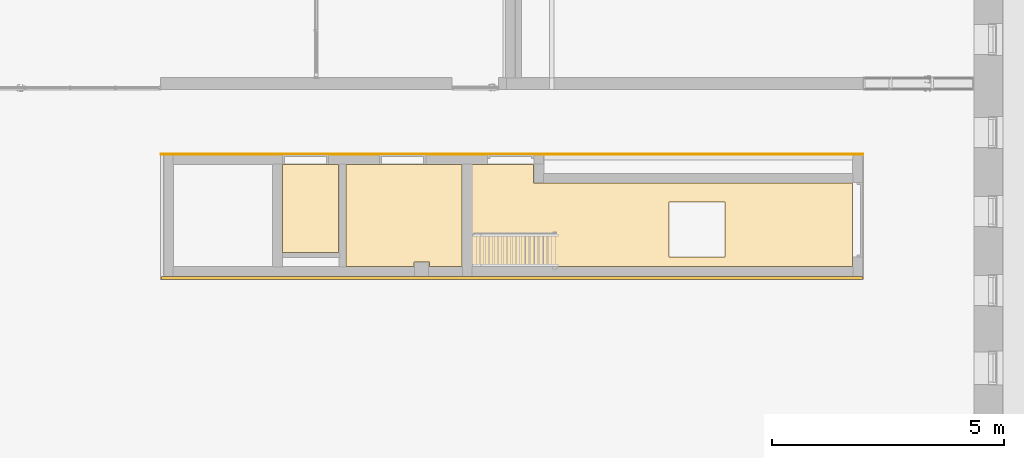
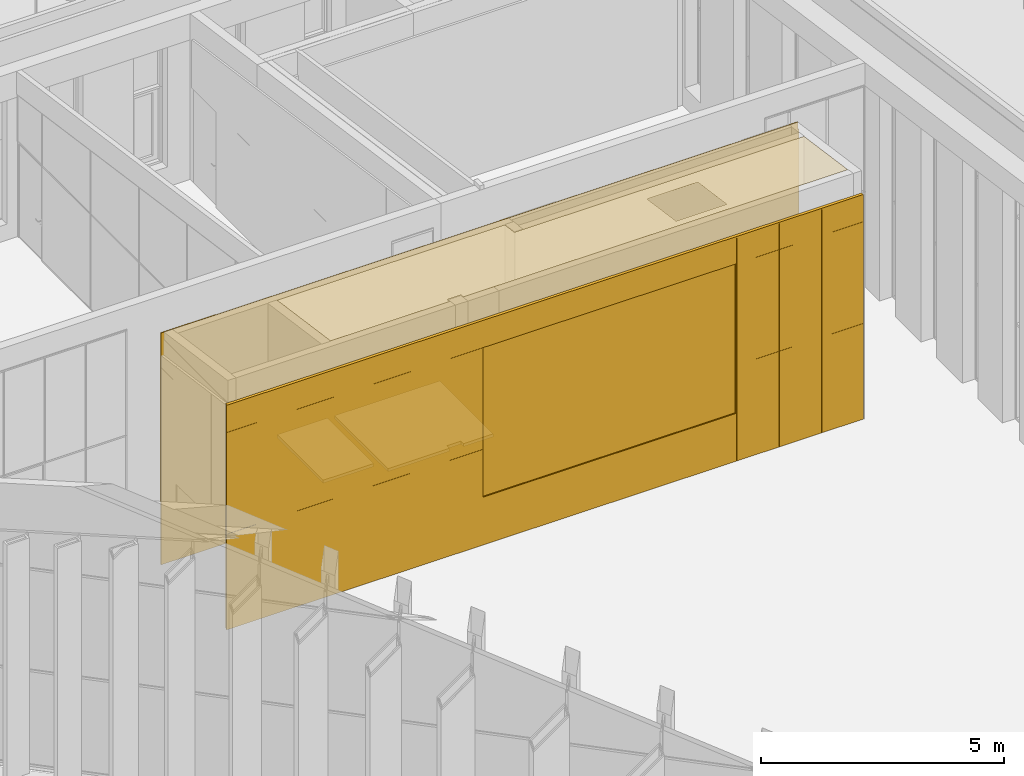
# One storey, part 179 of 246: 5 coverings, 5 openings.
"""IFC2X3 building model written with IfcOpenShell, lengths in millimetres."""

import ifcopenshell
import ifcopenshell.guid

model = None  # the IFC model being written
_history = None  # IfcOwnerHistory: only IFC2X3 demands one
_inside = {}  # id of a spatial element -> (the spatial element, [elements in it])
_under = {}  # id of a project, library or spatial element -> (it, [spatial elements below it])
_declared = {}  # id of a project -> (the project, [libraries it declares])
_typed = {}  # id of a type object -> (the type object, [elements of that type])
_made_of = {}  # id of a material, layer set ... -> (it, [elements and type objects made of it])


def new_model(schema):
    """Start an empty IFC model of exactly this schema.

    Asked for "IFC4X3", IfcOpenShell would pick the latest addendum, in which some entities
    have other attributes; the version numbers below select the first issue.
    IFC2X3 requires an IfcOwnerHistory on every rooted entity: one is made here for all.
    """
    global model, _history
    if schema == "IFC4X3":
        model = ifcopenshell.file(schema_version=(4, 3, 0, 0))
    else:
        model = ifcopenshell.file(schema=schema)
    _inside.clear()
    _under.clear()
    _declared.clear()
    _typed.clear()
    _made_of.clear()
    _history = None
    if model.schema == "IFC2X3":
        org = make("IfcOrganization", Name="unknown")
        user = make(
            "IfcPersonAndOrganization",
            ThePerson=make("IfcPerson", FamilyName="unknown"),
            TheOrganization=org,
        )
        app = make(
            "IfcApplication",
            ApplicationDeveloper=org,
            Version="unknown",
            ApplicationFullName="unknown",
            ApplicationIdentifier="unknown",
        )
        _history = make(
            "IfcOwnerHistory",
            OwningUser=user,
            OwningApplication=app,
            ChangeAction="ADDED",
            CreationDate=0,
        )
    return model


def make(cls, **values):
    """One entity of the class cls with the attributes given. An attribute that is None is left unset."""
    return model.create_entity(
        cls, **{name: value for name, value in values.items() if value is not None}
    )


def entity(cls, *values):
    """Any entity or typed value of the class cls, its attributes in the order of the schema. None: left unset."""
    e = model.create_entity(cls)
    for i, value in enumerate(values):
        if value is not None:
            e[i] = value
    return e


def rooted(cls, **values):
    """An entity with a GlobalId (a new one), such as an element, a storey or a relation."""
    return make(cls, GlobalId=ifcopenshell.guid.new(), OwnerHistory=_history, **values)


def si_unit(unit_type, name, prefix=None):
    """IfcSIUnit, for example si_unit("LENGTHUNIT", "METRE", prefix="MILLI")."""
    return make("IfcSIUnit", UnitType=unit_type, Prefix=prefix, Name=name)


def converted_unit(unit_type, name, factor, base, dimensions=None, offset=None):
    """IfcConversionBasedUnit, such as the inch: factor (a typed value) times the base unit."""
    return make(
        "IfcConversionBasedUnit"
        if offset is None
        else "IfcConversionBasedUnitWithOffset",
        ConversionOffset=offset,
        Dimensions=None
        if dimensions is None
        else entity("IfcDimensionalExponents", *dimensions),
        UnitType=unit_type,
        Name=name,
        ConversionFactor=make(
            "IfcMeasureWithUnit", ValueComponent=factor, UnitComponent=base
        ),
    )


def derived_unit(unit_type, elements):
    """IfcDerivedUnit: a product of units, each with its exponent."""
    return make(
        "IfcDerivedUnit",
        Elements=[
            make("IfcDerivedUnitElement", Unit=unit, Exponent=power)
            for unit, power in elements
        ],
        UnitType=unit_type,
    )


def money_unit(currency):
    """IfcMonetaryUnit."""
    return make("IfcMonetaryUnit", Currency=currency)


def assignment(units):
    """IfcUnitAssignment: the units of a project."""
    return None if units is None else make("IfcUnitAssignment", Units=units)


def point(xyz):
    """IfcCartesianPoint."""
    return None if xyz is None else make("IfcCartesianPoint", Coordinates=xyz)


def direction(xyz):
    """IfcDirection."""
    return None if xyz is None else make("IfcDirection", DirectionRatios=xyz)


def frame(location, z_axis=None, x_axis=None):
    """IfcAxis2Placement3D, a coordinate frame: its origin and axes. An axis left out is left unset."""
    return make(
        "IfcAxis2Placement3D",
        Location=point(location),
        Axis=direction(z_axis),
        RefDirection=direction(x_axis),
    )


def origin_with_axes():
    """The frame at (0, 0, 0) with the z axis (0, 0, 1) and the x axis (1, 0, 0) written out."""
    return frame((0.0, 0.0, 0.0), z_axis=(0.0, 0.0, 1.0), x_axis=(1.0, 0.0, 0.0))


def place(relative_to, where):
    """IfcLocalPlacement: puts the frame where relative to a parent placement (None: the world)."""
    return make(
        "IfcLocalPlacement", PlacementRelTo=relative_to, RelativePlacement=where
    )


def context(
    kind, dimensions, precision=None, world=None, true_north=None, identifier=None
):
    """IfcGeometricRepresentationContext, for example the 3D "Model" context."""
    return make(
        "IfcGeometricRepresentationContext",
        ContextIdentifier=identifier,
        ContextType=kind,
        CoordinateSpaceDimension=dimensions,
        Precision=precision,
        WorldCoordinateSystem=world,
        TrueNorth=true_north,
    )


def subcontext(parent, identifier, kind, view, scale=None):
    """IfcGeometricRepresentationSubContext, for example "Body" below "Model"."""
    return make(
        "IfcGeometricRepresentationSubContext",
        ContextIdentifier=identifier,
        ContextType=kind,
        ParentContext=parent,
        TargetScale=scale,
        TargetView=view,
    )


def project(units=None, contexts=None):
    """IfcProject with its units and contexts."""
    return rooted(
        "IfcProject",
        Name="project",
        RepresentationContexts=contexts,
        UnitsInContext=assignment(units),
    )


def spatial(cls, under=None, at=None, **own):
    """A site, building, storey or space (cls), placed at a placement, below another one or the project."""
    s = rooted(cls, ObjectPlacement=at, **own)
    if under is not None:
        _under.setdefault(under.id(), (under, []))[1].append(s)
    return s


def faces_of(points, faces, orient=None, outer=None):
    """IfcFace entities. A face is a list of loops; a loop is a list of indices into points, from 0.

    orient and outer hold one flag for each loop. By default every Orientation is true, the
    first loop of a face is its IfcFaceOuterBound and the others are IfcFaceBound.
    """
    made = []
    for i, loops in enumerate(faces):
        bounds = []
        for j, loop in enumerate(loops):
            is_outer = j == 0 if outer is None else outer[i][j]
            bounds.append(
                make(
                    "IfcFaceOuterBound" if is_outer else "IfcFaceBound",
                    Bound=make("IfcPolyLoop", Polygon=[points[k] for k in loop]),
                    Orientation=True if orient is None else orient[i][j],
                )
            )
        made.append(make("IfcFace", Bounds=bounds))
    return made


def faceted_brep(points, faces, orient=None, outer=None, voids=None):
    """IfcFacetedBrep: a solid bounded by flat faces; with voids (closed shells), ...WithVoids."""
    shared = [point(p) for p in points]
    hull = make("IfcClosedShell", CfsFaces=faces_of(shared, faces, orient, outer))
    if voids is None:
        return make("IfcFacetedBrep", Outer=hull)
    return make(
        "IfcFacetedBrepWithVoids",
        Outer=hull,
        Voids=[
            make(cls, CfsFaces=faces_of(shared, fs, o, b)) for cls, fs, o, b in voids
        ],
    )


def shape(context_of_items, identifier, shape_type, items):
    """IfcShapeRepresentation: the items that make up one representation, for example the "Body"."""
    return make(
        "IfcShapeRepresentation",
        ContextOfItems=context_of_items,
        RepresentationIdentifier=identifier,
        RepresentationType=shape_type,
        Items=items,
    )


def material(Name=None, Category=None):
    """IfcMaterial."""
    return make("IfcMaterial", Name=Name, Category=Category)


def material_list(materials):
    """IfcMaterialList."""
    return make("IfcMaterialList", Materials=materials)


def made_of(thing, what):
    """Note that an element or type object is made of a material, layer set ...; save() writes the relation."""
    if what is not None:
        _made_of.setdefault(what.id(), (what, []))[1].append(thing)
    return thing


def type_object(cls, material=None, **own):
    """A type object (cls), such as IfcWallType, which elements share."""
    return made_of(rooted(cls, **own), material)


def element(
    cls,
    number,
    at=None,
    inside=None,
    cuts=None,
    type_object=None,
    material=None,
    context=None,
    identifier="Body",
    shape_type=None,
    held_by="IfcProductDefinitionShape",
    body=None,
    shapes=None,
    **own,
):
    """One element of the class cls, such as IfcWall. Its Tag is "e" and its number.

    at: its placement. inside: the storey or other place that contains it. cuts: it is an
    opening in that element (IfcRelVoidsElement). A single representation is given by context,
    identifier, shape_type and body (its items); several are given by shapes. held_by: the class
    of the entity that holds the representations. save() writes the other relations.
    """
    e = rooted(cls, Tag="e%d" % number, ObjectPlacement=at, **own)
    if body is not None:
        shapes = [shape(context, identifier, shape_type, body)]
    if shapes is not None:
        e.Representation = make(held_by, Representations=shapes)
    if inside is not None:
        _inside.setdefault(inside.id(), (inside, []))[1].append(e)
    if cuts is not None:
        rooted(
            "IfcRelVoidsElement", RelatingBuildingElement=cuts, RelatedOpeningElement=e
        )
    if type_object is not None:
        _typed.setdefault(type_object.id(), (type_object, []))[1].append(e)
    return made_of(e, material)


def aggregate(whole, parts):
    """IfcRelAggregates: a whole, such as a stair, and the parts it consists of."""
    return rooted("IfcRelAggregates", RelatingObject=whole, RelatedObjects=parts)


def save(model, path):
    """Write the relations noted so far, then the file.

    IfcRelAggregates (storeys below a building ...), IfcRelContainedInSpatialStructure (elements
    in a storey), IfcRelDefinesByType, IfcRelAssociatesMaterial and IfcRelDeclares: one each for
    every whole, place, type object, material and project.
    """
    for whole, parts in _under.values():
        aggregate(whole, parts)
    for where, things in _inside.values():
        rooted(
            "IfcRelContainedInSpatialStructure",
            RelatedElements=things,
            RelatingStructure=where,
        )
    for kind, things in _typed.values():
        rooted("IfcRelDefinesByType", RelatedObjects=things, RelatingType=kind)
    for what, things in _made_of.values():
        rooted("IfcRelAssociatesMaterial", RelatedObjects=things, RelatingMaterial=what)
    for by, libraries in _declared.values():
        rooted("IfcRelDeclares", RelatingContext=by, RelatedDefinitions=libraries)
    model.write(path)


model = new_model("IFC2X3")

# Units and contexts
model_context = context("Model", 3, precision=0.01, world=origin_with_axes(), true_north=direction((0.0, 1.0)))
body_context = subcontext(model_context, "Body", "Model", "MODEL_VIEW")
ifc_project = project(units=[si_unit("LENGTHUNIT", "METRE", prefix="MILLI"), si_unit("AREAUNIT", "SQUARE_METRE"), si_unit("VOLUMEUNIT", "CUBIC_METRE"), converted_unit("PLANEANGLEUNIT", "DEGREE", entity("IfcPlaneAngleMeasure", 0.0174532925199), si_unit("PLANEANGLEUNIT", "RADIAN"), dimensions=[0, 0, 0, 0, 0, 0, 0]), si_unit("SOLIDANGLEUNIT", "STERADIAN"), money_unit("EUR"), converted_unit("TIMEUNIT", "Year", entity("IfcTimeMeasure", 31556926.0), si_unit("TIMEUNIT", "SECOND"), dimensions=[0, 0, 1, 0, 0, 0, 0]), si_unit("MASSUNIT", "GRAM", prefix="KILO"), si_unit("THERMODYNAMICTEMPERATUREUNIT", "DEGREE_CELSIUS"), si_unit("LUMINOUSINTENSITYUNIT", "LUMEN"), si_unit("ENERGYUNIT", "JOULE", prefix="MEGA"), derived_unit("THERMALCONDUCTANCEUNIT", [(si_unit("POWERUNIT", "WATT"), 1), (si_unit("LENGTHUNIT", "METRE"), -1), (si_unit("THERMODYNAMICTEMPERATUREUNIT", "KELVIN"), -1)]), derived_unit("SPECIFICHEATCAPACITYUNIT", [(si_unit("ENERGYUNIT", "JOULE"), 1), (si_unit("MASSUNIT", "GRAM", prefix="KILO"), -1), (si_unit("THERMODYNAMICTEMPERATUREUNIT", "KELVIN"), -1)]), derived_unit("MASSDENSITYUNIT", [(si_unit("MASSUNIT", "GRAM", prefix="KILO"), 1), (si_unit("VOLUMEUNIT", "CUBIC_METRE"), -1)])], contexts=[model_context])

# Site, building, storey
site_placement = place(None, origin_with_axes())
site = spatial("IfcSite", under=ifc_project, at=site_placement, Name="L.Koidula tn 11b", CompositionType="ELEMENT")
building_placement = place(site_placement, origin_with_axes())
building = spatial("IfcBuilding", under=site, at=building_placement, Name="Rakvere Riigigümnaasium", CompositionType="ELEMENT")
storey_placement = place(building_placement, origin_with_axes())
storey = spatial("IfcBuildingStorey", under=building, at=storey_placement, Name="1.korrus 0,00", CompositionType="ELEMENT", Elevation=0.0)

# Coverings
ifc_material_1 = material(Name="mineraalvill+karkass")
ifc_material_2 = material(Name="SKR-02_Kipsplaat")
ifc_material_list_1 = material_list([ifc_material_1, ifc_material_2])
covering_type_1 = type_object("IfcCoveringType", Name="SA-LV-kips 79", PredefinedType="CEILING")
covering_1_placement = place(storey_placement, frame((32119.9947426, 57836.95464, 2400.0), z_axis=(0.0, 0.0, 1.0), x_axis=(1.0, 0.0, 0.0)))
element("IfcCovering", 1, at=covering_1_placement, inside=storey, type_object=covering_type_1, material=ifc_material_list_1, Name="L-04", PredefinedType="CEILING", context=body_context, shape_type="Brep", body=[
    faceted_brep([(1199.99999797, 0.0, 12.5), (1199.99999797, 0.0, 78.5), (0.0, 0.0, 78.5), (0.0, 0.0, 12.5), (1199.99999797, 1893.49998916, 12.5), (1199.99999797, 1893.49998916, 78.5), (0.0, 1893.49998916, 78.5), (0.0, 1893.49998916, 12.5)], [[[0, 1, 2, 3]], [[4, 5, 1, 0]], [[2, 1, 5, 6]], [[3, 2, 6, 7]], [[3, 7, 4, 0]], [[7, 6, 5, 4]]]),
    faceted_brep([(0.0, 0.0, 0.0), (1199.99999797, 0.0, 0.0), (1199.99999797, 0.0, 12.5), (0.0, 0.0, 12.5), (0.0, 1893.49998916, 0.0), (1199.99999797, 1893.49998916, 0.0), (1199.99999797, 1893.49998916, 12.5), (0.0, 1893.49998916, 12.5)], [[[0, 1, 2, 3]], [[0, 4, 5, 1]], [[1, 5, 6, 2]], [[3, 2, 6, 7]], [[4, 0, 3, 7]], [[5, 4, 7, 6]]]),
])
covering_2_placement = place(storey_placement, frame((33479.9947426, 57530.4546496, 2400.0), z_axis=(0.0, 0.0, 1.0), x_axis=(1.0, 0.0, 0.0)))
element("IfcCovering", 2, at=covering_2_placement, inside=storey, type_object=covering_type_1, material=ifc_material_list_1, Name="L-04", PredefinedType="CEILING", context=body_context, shape_type="Brep", body=[
    faceted_brep([(1465.00530958, 0.0, 12.5), (1465.00530958, 0.0, 78.5), (0.0, 0.0, 78.5), (0.0, 0.0, 12.5), (1465.00530958, 105.108747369, 12.5), (1465.00530958, 105.108747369, 78.5), (1795.00532539, 105.108747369, 78.5), (1795.00532539, 0.0, 78.5), (2500.00522874, 0.0, 78.5), (2500.00522874, 2199.99998191, 78.5), (0.0, 2199.99998191, 78.5), (0.0, 2199.99998191, 12.5), (2500.00522874, 2199.99998191, 12.5), (2500.00522874, 0.0, 12.5), (1795.00532539, 0.0, 12.5), (1795.00532539, 105.108747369, 12.5)], [[[0, 1, 2, 3]], [[4, 5, 1, 0]], [[2, 1, 5, 6, 7, 8, 9, 10]], [[3, 2, 10, 11]], [[3, 11, 12, 13, 14, 15, 4, 0]], [[15, 6, 5, 4]], [[14, 7, 6, 15]], [[13, 8, 7, 14]], [[12, 9, 8, 13]], [[11, 10, 9, 12]]]),
    faceted_brep([(0.0, 0.0, 0.0), (1465.00530958, 0.0, 0.0), (1465.00530958, 0.0, 12.5), (0.0, 0.0, 12.5), (0.0, 2199.99998191, 0.0), (2500.00522874, 2199.99998191, 0.0), (2500.00522874, 0.0, 0.0), (1795.00532539, 0.0, 0.0), (1795.00532539, 105.108747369, 0.0), (1465.00530958, 105.108747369, 0.0), (1465.00530958, 105.108747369, 12.5), (1795.00532539, 105.108747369, 12.5), (1795.00532539, 0.0, 12.5), (2500.00522874, 0.0, 12.5), (2500.00522874, 2199.99998191, 12.5), (0.0, 2199.99998191, 12.5)], [[[0, 1, 2, 3]], [[0, 4, 5, 6, 7, 8, 9, 1]], [[1, 9, 10, 2]], [[3, 2, 10, 11, 12, 13, 14, 15]], [[4, 0, 3, 15]], [[5, 4, 15, 14]], [[6, 5, 14, 13]], [[7, 6, 13, 12]], [[8, 7, 12, 11]], [[9, 8, 11, 10]]]),
])

# Covering, openings
ifc_material_3 = material(Name="MDF")
covering_type_2 = type_object("IfcCoveringType", Name="MDF 20", PredefinedType="CLADDING")
covering_3_placement = place(storey_placement, frame((29489.9900192, 59940.4546496, 0.0), z_axis=(0.0, 0.0, 1.0), x_axis=(1.0, -1.42814857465e-09, 0.0)))
covering_3 = element("IfcCovering", 3, at=covering_3_placement, inside=storey, type_object=covering_type_2, material=ifc_material_3, Name="S-04", PredefinedType="CLADDING", context=body_context, shape_type="Brep", body=[
    faceted_brep([(1391.00000469, 20.0000019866, 5247.65874879), (7939.00997192, 20.0000113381, 5247.65874879), (7939.00997192, 20.0000113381, 5223.42760513), (8030.00996298, 20.0000114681, 5223.42760513), (8030.00996298, 20.0000114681, 5816.14986914), (9330.00997153, 20.0000133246, 5816.14986914), (9330.00997192, 20.0000133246, 5223.42760513), (9421.00997663, 20.0000134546, 5223.42760513), (9421.00997663, 20.0000134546, 5247.65874879), (13739.0099719, 20.0000196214, 5247.65874879), (13739.0099719, 20.0000196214, 5224.6798539), (13830.0099705, 20.0000197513, 5224.6798539), (13830.0099715, 20.0000197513, 5816.14986914), (15110.0099719, 20.0000215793, 5816.14986914), (15110.0099719, 20.0000215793, 5632.85676088), (15130.0099719, 20.0000216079, 5632.85676088), (15130.0099719, 20.0000216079, 0.0), (14910.5076012, 20.0000212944, 0.0), (14910.5076012, 20.0000212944, 1900.0), (8250.00997192, 20.0000117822, 1900.0), (8250.00997192, 20.0000117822, 0.0), (8040.01000649, 20.0000114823, 0.0), (8040.01000649, 20.0000114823, 2400.0), (7040.00997189, 20.0000100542, 2400.0), (7040.00997189, 20.0000100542, 0.0), (5710.01006753, 20.0000081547, 0.0), (5710.01006753, 20.0000081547, 2400.0), (4710.01003293, 20.0000067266, 2400.0), (4710.01003293, 20.0000067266, 0.0), (3619.86515137, 20.0000051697, 0.0), (3619.86515137, 20.0000051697, 2400.0), (2619.86511677, 20.0000037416, 2400.0), (2619.86511677, 20.0000037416, 0.0), (-2.85602652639e-08, 20.0, 0.0), (-2.85602652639e-08, 20.0, 5816.14986914), (1299.99999997, 20.0000018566, 5816.14986914), (1299.99999997, 20.0000018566, 5223.42760513), (1391.00000469, 20.0000019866, 5223.42760513), (7939.00997193, 9.99998063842, 5249.08196392), (1391.0000047, 10.1391750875, 5249.06215229), (1299.9999996, 10.1391749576, 5249.06215229), (1299.9999996, 9.99997115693, 5249.08196392), (7939.00997193, 10.0000113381, 5224.83301348), (8030.00996299, 10.0000114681, 5224.83301348), (8030.00996299, 10.0000114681, 5816.14986914), (1299.9999996, 9.99997115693, 5816.14986914), (1299.9999996, 10.1391749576, 5816.14986914), (0.0, 0.0, 5816.14986914), (15110.0099719, 2.15793392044e-05, 5816.14986914), (13830.0099715, 10.0000193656, 5816.14986914), (9330.00997154, 10.0000129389, 5816.14986914), (7939.00997193, 9.99998063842, 5816.14986914), (9330.00997154, 10.0000129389, 5249.08195961), (9330.00997193, 10.1391864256, 5249.06215229), (9330.00997193, 10.1391864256, 5224.81345398), (9421.00997665, 10.1391865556, 5224.81345398), (9421.00997665, 10.1391865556, 5249.06215234), (13739.0099719, 10.0000196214, 5249.08195961), (13739.0099719, 10.0000196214, 5226.08526224), (13830.0099705, 10.0000197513, 5226.08526224), (15110.0099719, 2.15793392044e-05, 5632.85676088), (15130.0099719, 2.16079030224e-05, 5632.85676088), (15130.0099719, 2.16079030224e-05, 0.0), (14910.5076012, 2.12944257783e-05, 0.0), (14910.5076012, 2.12944257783e-05, 1900.0), (8250.00997195, 1.17822409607e-05, 1900.0), (8250.00997195, 1.17822409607e-05, 0.0), (8040.01000652, 1.14823279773e-05, 0.0), (8040.01000652, 1.14823279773e-05, 2400.0), (7040.00997192, 1.0054179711e-05, 2400.0), (7040.00997192, 1.0054179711e-05, 0.0), (5710.01006756, 8.15474265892e-06, 0.0), (5710.01006756, 8.15474265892e-06, 2400.0), (4710.01003296, 6.7265943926e-06, 2400.0), (4710.01003296, 6.7265943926e-06, 0.0), (3619.8651514, 5.16970999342e-06, 0.0), (3619.8651514, 5.16970999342e-06, 2400.0), (2619.8651168, 3.74156172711e-06, 2400.0), (2619.8651168, 3.74156172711e-06, 0.0), (0.0, 0.0, 0.0), (1299.99999999, 10.1391749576, 5224.81345398), (1391.0000047, 10.1391750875, 5224.81345398)], [[[0, 1, 2, 3, 4, 5, 6, 7, 8, 9, 10, 11, 12, 13, 14, 15, 16, 17, 18, 19, 20, 21, 22, 23, 24, 25, 26, 27, 28, 29, 30, 31, 32, 33, 34, 35, 36, 37]], [[38, 1, 0, 39, 40, 41]], [[1, 38, 42, 2]], [[42, 43, 3, 2]], [[3, 43, 44, 4]], [[45, 46, 35, 34, 47, 48, 13, 12, 49, 50, 5, 4, 44, 51]], [[52, 53, 54, 6, 5, 50]], [[6, 54, 55, 7]], [[8, 7, 55, 56]], [[57, 9, 8, 56, 53, 52]], [[10, 9, 57, 58]], [[11, 10, 58, 59]], [[11, 59, 49, 12]], [[13, 48, 60, 14]], [[15, 14, 60, 61]], [[15, 61, 62, 16]], [[17, 16, 62, 63]], [[17, 63, 64, 18]], [[18, 64, 65, 19]], [[19, 65, 66, 20]], [[67, 21, 20, 66]], [[22, 21, 67, 68]], [[23, 22, 68, 69]], [[24, 23, 69, 70]], [[70, 71, 25, 24]], [[72, 26, 25, 71]], [[73, 27, 26, 72]], [[74, 28, 27, 73]], [[28, 74, 75, 29]], [[75, 76, 30, 29]], [[76, 77, 31, 30]], [[77, 78, 32, 31]], [[79, 33, 32, 78]], [[47, 34, 33, 79]], [[46, 45, 41, 40, 80, 36, 35]], [[81, 37, 36, 80]], [[39, 0, 37, 81]], [[40, 39, 81, 80]], [[45, 51, 44, 43, 42, 38, 41]], [[60, 48, 47, 79, 78, 77, 76, 75, 74, 73, 72, 71, 70, 69, 68, 67, 66, 65, 64, 63, 62, 61]], [[57, 52, 50, 49, 59, 58]], [[56, 55, 54, 53]]]),
])
opening_1_placement = place(covering_3_placement, frame((11580.2587866, 0.0, 0.0), z_axis=(0.0, 0.0, 1.0), x_axis=(1.0, 0.0, 0.0)))
element("IfcOpeningElement", 4, at=opening_1_placement, cuts=covering_3, Name="ava", context=body_context, shape_type="Brep", body=[
    faceted_brep([(-3330.24881459, -40.0000047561, 0.0), (-3330.24881459, -40.0000047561, 1900.0), (-3330.24881467, 19.9999952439, 1900.0), (-3330.24881467, 19.9999952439, 0.0), (3330.2488147, -39.9999952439, 0.0), (3330.2488147, -39.9999952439, 1900.0), (3330.24881462, 20.0000047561, 1900.0), (3330.24881462, 20.0000047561, 0.0)], [[[0, 1, 2, 3]], [[0, 4, 5, 1]], [[1, 5, 6, 2]], [[3, 2, 6, 7]], [[4, 0, 3, 7]], [[5, 4, 7, 6]]]),
])
opening_2_placement = place(covering_3_placement, frame((7540.00998922, 0.0, 0.0), z_axis=(0.0, 0.0, 1.0), x_axis=(1.0, 0.0, 0.0)))
element("IfcOpeningElement", 5, at=opening_2_placement, cuts=covering_3, Name="ava", context=body_context, shape_type="Brep", body=[
    faceted_brep([(-500.000017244, -40.0000007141, 0.0), (-500.000017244, -40.0000007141, 2400.0), (-500.000017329, 19.9999992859, 2400.0), (-500.000017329, 19.9999992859, 0.0), (500.000017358, -39.9999992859, 0.0), (500.000017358, -39.9999992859, 2400.0), (500.000017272, 20.0000007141, 2400.0), (500.000017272, 20.0000007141, 0.0)], [[[0, 1, 2, 3]], [[0, 4, 5, 1]], [[1, 5, 6, 2]], [[3, 2, 6, 7]], [[4, 0, 3, 7]], [[5, 4, 7, 6]]]),
])
opening_3_placement = place(covering_3_placement, frame((5210.01005026, 0.0, 0.0), z_axis=(0.0, 0.0, 1.0), x_axis=(1.0, 0.0, 0.0)))
element("IfcOpeningElement", 6, at=opening_3_placement, cuts=covering_3, Name="ava", context=body_context, shape_type="Brep", body=[
    faceted_brep([(-500.000017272, -20.0000007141, 0.0), (-500.000017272, -20.0000007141, 2400.0), (-500.000017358, 39.9999992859, 2400.0), (-500.000017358, 39.9999992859, 0.0), (500.000017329, -19.9999992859, 0.0), (500.000017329, -19.9999992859, 2400.0), (500.000017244, 40.0000007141, 2400.0), (500.000017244, 40.0000007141, 0.0)], [[[0, 1, 2, 3]], [[0, 4, 5, 1]], [[1, 5, 6, 2]], [[3, 2, 6, 7]], [[4, 0, 3, 7]], [[5, 4, 7, 6]]]),
])
opening_4_placement = place(covering_3_placement, frame((3119.8651341, 0.0, 0.0), z_axis=(0.0, 0.0, 1.0), x_axis=(1.0, 0.0, 0.0)))
element("IfcOpeningElement", 7, at=opening_4_placement, cuts=covering_3, Name="ava", context=body_context, shape_type="Brep", body=[
    faceted_brep([(-500.000017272, -20.0000007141, 0.0), (-500.000017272, -20.0000007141, 2400.0), (-500.000017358, 39.9999992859, 2400.0), (-500.000017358, 39.9999992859, 0.0), (500.000017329, -19.9999992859, 0.0), (500.000017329, -19.9999992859, 2400.0), (500.000017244, 40.0000007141, 2400.0), (500.000017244, 40.0000007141, 0.0)], [[[0, 1, 2, 3]], [[0, 4, 5, 1]], [[1, 5, 6, 2]], [[3, 2, 6, 7]], [[4, 0, 3, 7]], [[5, 4, 7, 6]]]),
])

# Covering, opening
ifc_material_4 = material(Name="Tolmutõke")
covering_type_3 = type_object("IfcCoveringType", Name="Tolmutõke 1", PredefinedType="CLADDING")
covering_4_placement = place(storey_placement, frame((44389.9958412, 57530.4421962, 6158.14510395), z_axis=(0.0, 0.0, 1.0), x_axis=(-1.0, 0.0, 0.0)))
covering_4 = element("IfcCovering", 8, at=covering_4_placement, inside=storey, type_object=covering_type_3, material=ifc_material_4, Name="L-07", PredefinedType="CLADDING", context=body_context, shape_type="Brep", body=[
    faceted_brep([(9114.99577339, 3.85625753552e-07, 2.82889267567e-07), (9114.99577339, -105.121200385, -14.96096209), (9439.99584156, -105.121200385, -14.96096209), (9439.99584156, 3.85625753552e-07, 2.82889267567e-07), (12270.0052489, 3.85625753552e-07, 2.82889267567e-07), (12270.0052489, -2200.00008548, -313.106378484), (6870.00005084, -2200.00008548, -313.106378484), (6870.00005084, -1800.0000868, -256.17794839), (4.36955360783e-07, -1800.0000868, -256.17794839), (4.36955360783e-07, 3.85625753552e-07, 2.82889267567e-07), (3953.45408584, -208.170465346, -29.6270443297), (2753.45408584, -208.170465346, -29.6270443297), (2753.45408584, -1396.19885461, -198.708522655), (3953.45408584, -1396.19885461, -198.708522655), (9114.9957732, -105.121200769, -13.9607154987), (9114.9957732, 0.0, 1.00024687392), (9439.99584116, -105.121200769, -13.9607154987), (9439.99584116, 0.0, 1.00024687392), (12270.0052485, 0.0, 1.00024687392), (12270.0052485, -2200.00008588, -312.106131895), (6870.00005126, -2200.00008588, -312.106131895), (6870.00005126, -1800.00008689, -255.177701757), (0.0, -1800.00008689, -255.177701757), (0.0, 0.0, 1.00024687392), (3953.45408584, -208.309995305, -28.6466557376), (2753.45408584, -208.309995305, -28.6466557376), (2753.45408584, -1396.33838457, -197.728134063), (3953.45408584, -1396.33838457, -197.728134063)], [[[0, 1, 2, 3, 4, 5, 6, 7, 8, 9], [10, 11, 12, 13]], [[14, 1, 0, 15]], [[16, 2, 1, 14]], [[17, 3, 2, 16]], [[18, 4, 3, 17]], [[19, 5, 4, 18]], [[20, 6, 5, 19]], [[21, 7, 6, 20]], [[22, 8, 7, 21]], [[23, 9, 8, 22]], [[15, 0, 9, 23]], [[24, 25, 11, 10]], [[25, 26, 12, 11]], [[26, 27, 13, 12]], [[27, 24, 10, 13]], [[21, 20, 19, 18, 17, 16, 14, 15, 23, 22], [24, 27, 26, 25]]]),
])
opening_5_placement = place(covering_4_placement, frame((3353.45408584, -1396.33838457, 5960.41696989), z_axis=(0.0, 0.0, 1.0), x_axis=(1.0, 0.0, 0.0)))
element("IfcOpeningElement", 9, at=opening_5_placement, cuts=covering_4, Name="Ava ripplaes", context=body_context, shape_type="Brep", body=[
    faceted_brep([(600.0, 1188.30882048, -5991.0340381), (-600.0, 1188.30882048, -5991.0340381), (-600.0, 1187.88748803, -5988.07360197), (600.0, 1187.88748803, -5988.07360197), (600.0, 0.280431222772, -6160.11551643), (-600.0, 0.280431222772, -6160.11551643), (-600.0, -0.140901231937, -6157.15508029), (600.0, -0.140901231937, -6157.15508029)], [[[0, 1, 2, 3]], [[0, 4, 5, 1]], [[1, 5, 6, 2]], [[3, 2, 6, 7]], [[4, 0, 3, 7]], [[5, 4, 7, 6]]]),
])

# Covering
ifc_material_5 = material(Name="Klaasvill")
ifc_material_list_2 = material_list([ifc_material_3, ifc_material_5])
covering_type_4 = type_object("IfcCoveringType", Name="SA - Akustiline sein 70 70", PredefinedType="CLADDING")
covering_5_placement = place(storey_placement, frame((44599.9999911, 57320.4546496, 0.0), z_axis=(0.0, 0.0, 1.0), x_axis=(-1.0, 0.0, 0.0)))
element("IfcCovering", 10, at=covering_5_placement, inside=storey, type_object=covering_type_4, material=ifc_material_list_2, Name="S-03", PredefinedType="CLADDING", context=body_context, shape_type="Brep", body=[
    faceted_brep([(987.676638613, 50.0, 2399.0), (0.0, 50.0, 2399.0), (0.0, 50.0, 0.0), (987.676638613, 50.0, 0.0), (0.0, 70.0, 2399.0), (987.676638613, 70.0, 2399.0), (0.0, 70.0, 0.0), (987.676638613, 70.0, 0.0)], [[[0, 1, 2, 3]], [[4, 1, 0, 5]], [[1, 4, 6, 2]], [[7, 3, 2, 6]], [[5, 0, 3, 7]], [[4, 5, 7, 6]]]),
    faceted_brep([(5022.34330528, 50.0, 0.0), (5022.34330528, 50.0, 1200.0), (4015.67663861, 50.0, 1200.0), (4015.67663861, 50.0, 0.0), (5022.34330528, 70.0, 1200.0), (5022.34330528, 70.0, 0.0), (4015.67663861, 70.0, 1200.0), (4015.67663861, 70.0, 0.0)], [[[0, 1, 2, 3]], [[4, 1, 0, 5]], [[1, 4, 6, 2]], [[3, 2, 6, 7]], [[5, 0, 3, 7]], [[4, 5, 7, 6]]]),
    faceted_brep([(6031.00997195, 50.0, 0.0), (6031.00997195, 50.0, 1200.0), (5024.34330528, 50.0, 1200.0), (5024.34330528, 50.0, 0.0), (6031.00997195, 70.0, 1200.0), (6031.00997195, 70.0, 0.0), (5024.34330528, 70.0, 1200.0), (5024.34330528, 70.0, 0.0)], [[[0, 1, 2, 3]], [[4, 1, 0, 5]], [[1, 4, 6, 2]], [[3, 2, 6, 7]], [[5, 0, 3, 7]], [[4, 5, 7, 6]]]),
    faceted_brep([(7039.67663861, 50.0, 0.0), (7039.67663861, 50.0, 1200.0), (6033.00997195, 50.0, 1200.0), (6033.00997195, 50.0, 0.0), (7039.67663861, 70.0, 1200.0), (7039.67663861, 70.0, 0.0), (6033.00997195, 70.0, 1200.0), (6033.00997195, 70.0, 0.0)], [[[0, 1, 2, 3]], [[4, 1, 0, 5]], [[1, 4, 6, 2]], [[3, 2, 6, 7]], [[5, 0, 3, 7]], [[4, 5, 7, 6]]]),
    faceted_brep([(8048.34330528, 50.0, 0.0), (8048.34330528, 50.0, 1200.0), (7041.67663861, 50.0, 1200.0), (7041.67663861, 50.0, 0.0), (8048.34330528, 70.0, 1200.0), (8048.34330528, 70.0, 0.0), (7041.67663861, 70.0, 1200.0), (7041.67663861, 70.0, 0.0)], [[[0, 1, 2, 3]], [[4, 1, 0, 5]], [[1, 4, 6, 2]], [[3, 2, 6, 7]], [[5, 0, 3, 7]], [[4, 5, 7, 6]]]),
    faceted_brep([(987.676638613, 50.0, 4949.0), (0.0, 50.0, 4949.0), (0.0, 50.0, 2401.0), (987.676638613, 50.0, 2401.0), (0.0, 70.0, 4949.0), (987.676638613, 70.0, 4949.0), (0.0, 70.0, 2401.0), (987.676638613, 70.0, 2401.0)], [[[0, 1, 2, 3]], [[4, 1, 0, 5]], [[1, 4, 6, 2]], [[3, 2, 6, 7]], [[5, 0, 3, 7]], [[4, 5, 7, 6]]]),
    faceted_brep([(1996.34330528, 50.0, 2399.0), (989.676638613, 50.0, 2399.0), (989.676638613, 50.0, 0.0), (1996.34330528, 50.0, 0.0), (989.676638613, 70.0, 2399.0), (1996.34330528, 70.0, 2399.0), (989.676638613, 70.0, 0.0), (1996.34330528, 70.0, 0.0)], [[[0, 1, 2, 3]], [[4, 1, 0, 5]], [[1, 4, 6, 2]], [[7, 3, 2, 6]], [[5, 0, 3, 7]], [[4, 5, 7, 6]]]),
    faceted_brep([(1996.34330528, 50.0, 4949.0), (989.676638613, 50.0, 4949.0), (989.676638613, 50.0, 2401.0), (1996.34330528, 50.0, 2401.0), (989.676638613, 70.0, 4949.0), (1996.34330528, 70.0, 4949.0), (989.676638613, 70.0, 2401.0), (1996.34330528, 70.0, 2401.0)], [[[0, 1, 2, 3]], [[4, 1, 0, 5]], [[1, 4, 6, 2]], [[3, 2, 6, 7]], [[5, 0, 3, 7]], [[4, 5, 7, 6]]]),
    faceted_brep([(3005.00997195, 50.0, 2399.0), (1998.34330528, 50.0, 2399.0), (1998.34330528, 50.0, 0.0), (3005.00997195, 50.0, 0.0), (1998.34330528, 70.0, 2399.0), (3005.00997195, 70.0, 2399.0), (1998.34330528, 70.0, 0.0), (3005.00997195, 70.0, 0.0)], [[[0, 1, 2, 3]], [[4, 1, 0, 5]], [[1, 4, 6, 2]], [[7, 3, 2, 6]], [[5, 0, 3, 7]], [[4, 5, 7, 6]]]),
    faceted_brep([(3005.00997195, 50.0, 4949.0), (1998.34330528, 50.0, 4949.0), (1998.34330528, 50.0, 2401.0), (3005.00997195, 50.0, 2401.0), (1998.34330528, 70.0, 4949.0), (3005.00997195, 70.0, 4949.0), (1998.34330528, 70.0, 2401.0), (3005.00997195, 70.0, 2401.0)], [[[0, 1, 2, 3]], [[4, 1, 0, 5]], [[1, 4, 6, 2]], [[3, 2, 6, 7]], [[5, 0, 3, 7]], [[4, 5, 7, 6]]]),
    faceted_brep([(3025.50997195, 50.0, 2399.0), (3007.00997195, 50.0, 2399.0), (3007.00997195, 50.0, 0.0), (4013.67663861, 50.0, 0.0), (4013.67663861, 50.0, 1200.0), (3025.50997195, 50.0, 1200.0), (3007.00997195, 70.0, 2399.0), (3025.50997195, 70.0, 2399.0), (3007.00997195, 70.0, 0.0), (4013.67663861, 70.0, 0.0), (4013.67663861, 70.0, 1200.0), (3025.50997195, 70.0, 1200.0)], [[[0, 1, 2, 3, 4, 5]], [[6, 1, 0, 7]], [[1, 6, 8, 2]], [[9, 3, 2, 8]], [[10, 4, 3, 9]], [[4, 10, 11, 5]], [[7, 0, 5, 11]], [[6, 7, 11, 10, 9, 8]]]),
    faceted_brep([(3025.50997195, 50.0, 4949.0), (3007.00997195, 50.0, 4949.0), (3007.00997195, 50.0, 2401.0), (3025.50997195, 50.0, 2401.0), (3007.00997195, 70.0, 4949.0), (3025.50997195, 70.0, 4949.0), (3007.00997195, 70.0, 2401.0), (3025.50997195, 70.0, 2401.0)], [[[0, 1, 2, 3]], [[4, 1, 0, 5]], [[1, 4, 6, 2]], [[3, 2, 6, 7]], [[5, 0, 3, 7]], [[4, 5, 7, 6]]]),
    faceted_brep([(9057.00997195, 50.0, 2399.0), (9025.50997195, 50.0, 2399.0), (9025.50997195, 50.0, 1200.0), (8050.34330528, 50.0, 1200.0), (8050.34330528, 50.0, 0.0), (9057.00997195, 50.0, 0.0), (9025.50997195, 70.0, 2399.0), (9057.00997195, 70.0, 2399.0), (9025.50997195, 70.0, 1200.0), (8050.34330528, 70.0, 1200.0), (8050.34330528, 70.0, 0.0), (9057.00997195, 70.0, 0.0)], [[[0, 1, 2, 3, 4, 5]], [[6, 1, 0, 7]], [[1, 6, 8, 2]], [[9, 3, 2, 8]], [[4, 3, 9, 10]], [[11, 5, 4, 10]], [[7, 0, 5, 11]], [[6, 7, 11, 10, 9, 8]]]),
    faceted_brep([(9057.00997195, 50.0, 4949.0), (9025.50997195, 50.0, 4949.0), (9025.50997195, 50.0, 2401.0), (9057.00997195, 50.0, 2401.0), (9025.50997195, 70.0, 4949.0), (9057.00997195, 70.0, 4949.0), (9025.50997195, 70.0, 2401.0), (9057.00997195, 70.0, 2401.0)], [[[0, 1, 2, 3]], [[4, 1, 0, 5]], [[1, 4, 6, 2]], [[3, 2, 6, 7]], [[5, 0, 3, 7]], [[4, 5, 7, 6]]]),
    faceted_brep([(10065.6766386, 50.0, 2399.0), (9059.00997195, 50.0, 2399.0), (9059.00997195, 50.0, 0.0), (10065.6766386, 50.0, 0.0), (9059.00997195, 70.0, 2399.0), (10065.6766386, 70.0, 2399.0), (9059.00997195, 70.0, 0.0), (10065.6766386, 70.0, 0.0)], [[[0, 1, 2, 3]], [[4, 1, 0, 5]], [[1, 4, 6, 2]], [[7, 3, 2, 6]], [[5, 0, 3, 7]], [[4, 5, 7, 6]]]),
    faceted_brep([(10065.6766386, 50.0, 4949.0), (9059.00997195, 50.0, 4949.0), (9059.00997195, 50.0, 2401.0), (10065.6766386, 50.0, 2401.0), (9059.00997195, 70.0, 4949.0), (10065.6766386, 70.0, 4949.0), (9059.00997195, 70.0, 2401.0), (10065.6766386, 70.0, 2401.0)], [[[0, 1, 2, 3]], [[4, 1, 0, 5]], [[1, 4, 6, 2]], [[3, 2, 6, 7]], [[5, 0, 3, 7]], [[4, 5, 7, 6]]]),
    faceted_brep([(11074.3433053, 50.0, 2399.0), (10067.6766386, 50.0, 2399.0), (10067.6766386, 50.0, 0.0), (11074.3433053, 50.0, 0.0), (10067.6766386, 70.0, 2399.0), (11074.3433053, 70.0, 2399.0), (10067.6766386, 70.0, 0.0), (11074.3433053, 70.0, 0.0)], [[[0, 1, 2, 3]], [[4, 1, 0, 5]], [[1, 4, 6, 2]], [[7, 3, 2, 6]], [[5, 0, 3, 7]], [[4, 5, 7, 6]]]),
    faceted_brep([(11074.3433053, 50.0, 4949.0), (10067.6766386, 50.0, 4949.0), (10067.6766386, 50.0, 2401.0), (11074.3433053, 50.0, 2401.0), (10067.6766386, 70.0, 4949.0), (11074.3433053, 70.0, 4949.0), (10067.6766386, 70.0, 2401.0), (11074.3433053, 70.0, 2401.0)], [[[0, 1, 2, 3]], [[4, 1, 0, 5]], [[1, 4, 6, 2]], [[3, 2, 6, 7]], [[5, 0, 3, 7]], [[4, 5, 7, 6]]]),
    faceted_brep([(12083.0099719, 50.0, 2399.0), (11076.3433053, 50.0, 2399.0), (11076.3433053, 50.0, 0.0), (12083.0099719, 50.0, 0.0), (11076.3433053, 70.0, 2399.0), (12083.0099719, 70.0, 2399.0), (11076.3433053, 70.0, 0.0), (12083.0099719, 70.0, 0.0)], [[[0, 1, 2, 3]], [[4, 1, 0, 5]], [[1, 4, 6, 2]], [[7, 3, 2, 6]], [[5, 0, 3, 7]], [[4, 5, 7, 6]]]),
    faceted_brep([(12083.0099719, 50.0, 4949.0), (11076.3433053, 50.0, 4949.0), (11076.3433053, 50.0, 2401.0), (12083.0099719, 50.0, 2401.0), (11076.3433053, 70.0, 4949.0), (12083.0099719, 70.0, 4949.0), (11076.3433053, 70.0, 2401.0), (12083.0099719, 70.0, 2401.0)], [[[0, 1, 2, 3]], [[4, 1, 0, 5]], [[1, 4, 6, 2]], [[3, 2, 6, 7]], [[5, 0, 3, 7]], [[4, 5, 7, 6]]]),
    faceted_brep([(13091.6766386, 50.0, 2399.0), (12085.0099719, 50.0, 2399.0), (12085.0099719, 50.0, 0.0), (13091.6766386, 50.0, 0.0), (12085.0099719, 70.0, 2399.0), (13091.6766386, 70.0, 2399.0), (12085.0099719, 70.0, 0.0), (13091.6766386, 70.0, 0.0)], [[[0, 1, 2, 3]], [[4, 1, 0, 5]], [[1, 4, 6, 2]], [[7, 3, 2, 6]], [[5, 0, 3, 7]], [[4, 5, 7, 6]]]),
    faceted_brep([(13091.6766386, 50.0, 4949.0), (12085.0099719, 50.0, 4949.0), (12085.0099719, 50.0, 2401.0), (13091.6766386, 50.0, 2401.0), (12085.0099719, 70.0, 4949.0), (13091.6766386, 70.0, 4949.0), (12085.0099719, 70.0, 2401.0), (13091.6766386, 70.0, 2401.0)], [[[0, 1, 2, 3]], [[4, 1, 0, 5]], [[1, 4, 6, 2]], [[3, 2, 6, 7]], [[5, 0, 3, 7]], [[4, 5, 7, 6]]]),
    faceted_brep([(14100.3433053, 50.0, 2399.0), (13093.6766386, 50.0, 2399.0), (13093.6766386, 50.0, 0.0), (14100.3433053, 50.0, 0.0), (13093.6766386, 70.0, 2399.0), (14100.3433053, 70.0, 2399.0), (13093.6766386, 70.0, 0.0), (14100.3433053, 70.0, 0.0)], [[[0, 1, 2, 3]], [[4, 1, 0, 5]], [[1, 4, 6, 2]], [[7, 3, 2, 6]], [[5, 0, 3, 7]], [[4, 5, 7, 6]]]),
    faceted_brep([(14100.3433053, 50.0, 4949.0), (13093.6766386, 50.0, 4949.0), (13093.6766386, 50.0, 2401.0), (14100.3433053, 50.0, 2401.0), (13093.6766386, 70.0, 4949.0), (14100.3433053, 70.0, 4949.0), (13093.6766386, 70.0, 2401.0), (14100.3433053, 70.0, 2401.0)], [[[0, 1, 2, 3]], [[4, 1, 0, 5]], [[1, 4, 6, 2]], [[3, 2, 6, 7]], [[5, 0, 3, 7]], [[4, 5, 7, 6]]]),
    faceted_brep([(15110.0099719, 50.0, 2399.0), (14102.3433053, 50.0, 2399.0), (14102.3433053, 50.0, 0.0), (15110.0099719, 50.0, 0.0), (14102.3433053, 70.0, 2399.0), (15110.0099719, 70.0, 2399.0), (14102.3433053, 70.0, 0.0), (15110.0099719, 70.0, 0.0)], [[[0, 1, 2, 3]], [[4, 1, 0, 5]], [[1, 4, 6, 2]], [[2, 6, 7, 3]], [[5, 0, 3, 7]], [[4, 5, 7, 6]]]),
    faceted_brep([(15110.0099719, 50.0, 4949.0), (14102.3433053, 50.0, 4949.0), (14102.3433053, 50.0, 2401.0), (15110.0099719, 50.0, 2401.0), (14102.3433053, 70.0, 4949.0), (15110.0099719, 70.0, 4949.0), (14102.3433053, 70.0, 2401.0), (15110.0099719, 70.0, 2401.0)], [[[0, 1, 2, 3]], [[4, 1, 0, 5]], [[1, 4, 6, 2]], [[3, 2, 6, 7]], [[5, 0, 3, 7]], [[4, 5, 7, 6]]]),
    faceted_brep([(14102.3433053, 70.0, 4951.0), (14102.3433053, 50.0, 4951.0), (14102.3433053, 50.0, 5600.0), (14102.3433053, 70.0, 5600.0), (15110.0099719, 50.0, 4951.0), (15110.0099719, 70.0, 4951.0), (15110.0099719, 50.0, 5632.85676088), (0.0, 50.0, 5632.85676088), (0.0, 50.0, 4951.0), (987.676638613, 50.0, 4951.0), (987.676638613, 50.0, 5600.0), (989.676638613, 50.0, 5600.0), (989.676638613, 50.0, 4951.0), (1996.34330528, 50.0, 4951.0), (1996.34330528, 50.0, 5600.0), (1998.34330528, 50.0, 5600.0), (1998.34330528, 50.0, 4951.0), (3005.00997195, 50.0, 4951.0), (3005.00997195, 50.0, 5600.0), (3007.00997195, 50.0, 5600.0), (3007.00997195, 50.0, 4951.0), (4013.67663861, 50.0, 4951.0), (4013.67663861, 50.0, 5600.0), (4015.67663861, 50.0, 5600.0), (4015.67663861, 50.0, 4951.0), (5022.34330528, 50.0, 4951.0), (5022.34330528, 50.0, 5600.0), (5024.34330528, 50.0, 5600.0), (5024.34330528, 50.0, 4951.0), (6031.00997195, 50.0, 4951.0), (6031.00997195, 50.0, 5600.0), (6033.00997195, 50.0, 5600.0), (6033.00997195, 50.0, 4951.0), (7039.67663861, 50.0, 4951.0), (7039.67663861, 50.0, 5600.0), (7041.67663861, 50.0, 5600.0), (7041.67663861, 50.0, 4951.0), (8048.34330528, 50.0, 4951.0), (8048.34330528, 50.0, 5600.0), (8050.34330528, 50.0, 5600.0), (8050.34330528, 50.0, 4951.0), (9057.00997195, 50.0, 4951.0), (9057.00997195, 50.0, 5600.0), (9059.00997195, 50.0, 5600.0), (9059.00997195, 50.0, 4951.0), (10065.6766386, 50.0, 4951.0), (10065.6766386, 50.0, 5600.0), (10067.6766386, 50.0, 5600.0), (10067.6766386, 50.0, 4951.0), (11074.3433053, 50.0, 4951.0), (11074.3433053, 50.0, 5600.0), (11076.3433053, 50.0, 5600.0), (11076.3433053, 50.0, 4951.0), (12083.0099719, 50.0, 4951.0), (12083.0099719, 50.0, 5600.0), (12085.0099719, 50.0, 5600.0), (12085.0099719, 50.0, 4951.0), (13091.6766386, 50.0, 4951.0), (13091.6766386, 50.0, 5600.0), (13093.6766386, 50.0, 5600.0), (13093.6766386, 50.0, 4951.0), (14100.3433053, 50.0, 4951.0), (14100.3433053, 50.0, 5600.0), (14100.3433053, 70.0, 5600.0), (14100.3433053, 70.0, 4951.0), (13093.6766386, 70.0, 4951.0), (13093.6766386, 70.0, 5600.0), (13091.6766386, 70.0, 5600.0), (13091.6766386, 70.0, 4951.0), (12085.0099719, 70.0, 4951.0), (12085.0099719, 70.0, 5600.0), (12083.0099719, 70.0, 5600.0), (12083.0099719, 70.0, 4951.0), (11076.3433053, 70.0, 4951.0), (11076.3433053, 70.0, 5600.0), (11074.3433053, 70.0, 5600.0), (11074.3433053, 70.0, 4951.0), (10067.6766386, 70.0, 4951.0), (10067.6766386, 70.0, 5600.0), (10065.6766386, 70.0, 5600.0), (10065.6766386, 70.0, 4951.0), (9059.00997195, 70.0, 4951.0), (9059.00997195, 70.0, 5600.0), (9057.00997195, 70.0, 5600.0), (9057.00997195, 70.0, 4951.0), (8050.34330528, 70.0, 4951.0), (8050.34330528, 70.0, 5600.0), (8048.34330528, 70.0, 5600.0), (8048.34330528, 70.0, 4951.0), (7041.67663861, 70.0, 4951.0), (7041.67663861, 70.0, 5600.0), (7039.67663861, 70.0, 5600.0), (7039.67663861, 70.0, 4951.0), (6033.00997195, 70.0, 4951.0), (6033.00997195, 70.0, 5600.0), (6031.00997195, 70.0, 5600.0), (6031.00997195, 70.0, 4951.0), (5024.34330528, 70.0, 4951.0), (5024.34330528, 70.0, 5600.0), (5022.34330528, 70.0, 5600.0), (5022.34330528, 70.0, 4951.0), (4015.67663861, 70.0, 4951.0), (4015.67663861, 70.0, 5600.0), (4013.67663861, 70.0, 5600.0), (4013.67663861, 70.0, 4951.0), (3007.00997195, 70.0, 4951.0), (3007.00997195, 70.0, 5600.0), (3005.00997195, 70.0, 5600.0), (3005.00997195, 70.0, 4951.0), (1998.34330528, 70.0, 4951.0), (1998.34330528, 70.0, 5600.0), (1996.34330528, 70.0, 5600.0), (1996.34330528, 70.0, 4951.0), (989.676638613, 70.0, 4951.0), (989.676638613, 70.0, 5600.0), (987.676638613, 70.0, 5600.0), (987.676638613, 70.0, 4951.0), (0.0, 70.0, 4951.0), (0.0, 70.0, 5632.85676088), (15110.0099719, 70.0, 5632.85676088)], [[[0, 1, 2, 3]], [[4, 1, 0, 5]], [[1, 4, 6, 7, 8, 9, 10, 11, 12, 13, 14, 15, 16, 17, 18, 19, 20, 21, 22, 23, 24, 25, 26, 27, 28, 29, 30, 31, 32, 33, 34, 35, 36, 37, 38, 39, 40, 41, 42, 43, 44, 45, 46, 47, 48, 49, 50, 51, 52, 53, 54, 55, 56, 57, 58, 59, 60, 61, 62, 2]], [[2, 62, 63, 3]], [[5, 0, 3, 63, 64, 65, 66, 67, 68, 69, 70, 71, 72, 73, 74, 75, 76, 77, 78, 79, 80, 81, 82, 83, 84, 85, 86, 87, 88, 89, 90, 91, 92, 93, 94, 95, 96, 97, 98, 99, 100, 101, 102, 103, 104, 105, 106, 107, 108, 109, 110, 111, 112, 113, 114, 115, 116, 117, 118, 119]], [[4, 5, 119, 6]], [[7, 6, 119, 118]], [[117, 8, 7, 118]], [[9, 8, 117, 116]], [[9, 116, 115, 10]], [[11, 10, 115, 114]], [[113, 12, 11, 114]], [[13, 12, 113, 112]], [[13, 112, 111, 14]], [[15, 14, 111, 110]], [[109, 16, 15, 110]], [[17, 16, 109, 108]], [[17, 108, 107, 18]], [[19, 18, 107, 106]], [[105, 20, 19, 106]], [[21, 20, 105, 104]], [[21, 104, 103, 22]], [[23, 22, 103, 102]], [[101, 24, 23, 102]], [[25, 24, 101, 100]], [[25, 100, 99, 26]], [[27, 26, 99, 98]], [[97, 28, 27, 98]], [[29, 28, 97, 96]], [[29, 96, 95, 30]], [[31, 30, 95, 94]], [[93, 32, 31, 94]], [[33, 32, 93, 92]], [[33, 92, 91, 34]], [[35, 34, 91, 90]], [[89, 36, 35, 90]], [[37, 36, 89, 88]], [[37, 88, 87, 38]], [[39, 38, 87, 86]], [[85, 40, 39, 86]], [[41, 40, 85, 84]], [[41, 84, 83, 42]], [[43, 42, 83, 82]], [[81, 44, 43, 82]], [[45, 44, 81, 80]], [[45, 80, 79, 46]], [[47, 46, 79, 78]], [[77, 48, 47, 78]], [[49, 48, 77, 76]], [[49, 76, 75, 50]], [[51, 50, 75, 74]], [[73, 52, 51, 74]], [[53, 52, 73, 72]], [[53, 72, 71, 54]], [[55, 54, 71, 70]], [[69, 56, 55, 70]], [[57, 56, 69, 68]], [[57, 68, 67, 58]], [[59, 58, 67, 66]], [[65, 60, 59, 66]], [[61, 60, 65, 64]], [[61, 64, 63, 62]]]),
    faceted_brep([(9025.50997195, 40.0, 4950.0), (9025.50997195, 40.0, 1200.0), (3025.50997195, 40.0, 1200.0), (3025.50997195, 40.0, 4950.0), (9025.50997195, 50.0, 4950.0), (9025.50997195, 50.0, 1200.0), (3025.50997195, 50.0, 1200.0), (3025.50997195, 50.0, 4950.0), (0.0, 50.0, 5632.85676088), (15090.0099719, 50.0, 5632.85676088), (15090.0099719, 50.0, 0.0), (0.0, 50.0, 0.0), (0.0, 0.0, 5632.85676088), (15090.0099719, 0.0, 5632.85676088), (15090.0099719, 0.0, 0.0), (0.0, 0.0, 0.0)], [[[0, 1, 2, 3]], [[0, 4, 5, 1]], [[1, 5, 6, 2]], [[2, 6, 7, 3]], [[3, 7, 4, 0]], [[8, 9, 10, 11], [6, 5, 4, 7]], [[12, 13, 9, 8]], [[10, 9, 13, 14]], [[11, 10, 14, 15]], [[11, 15, 12, 8]], [[15, 14, 13, 12]]]),
])

save(model, "model.ifc")
